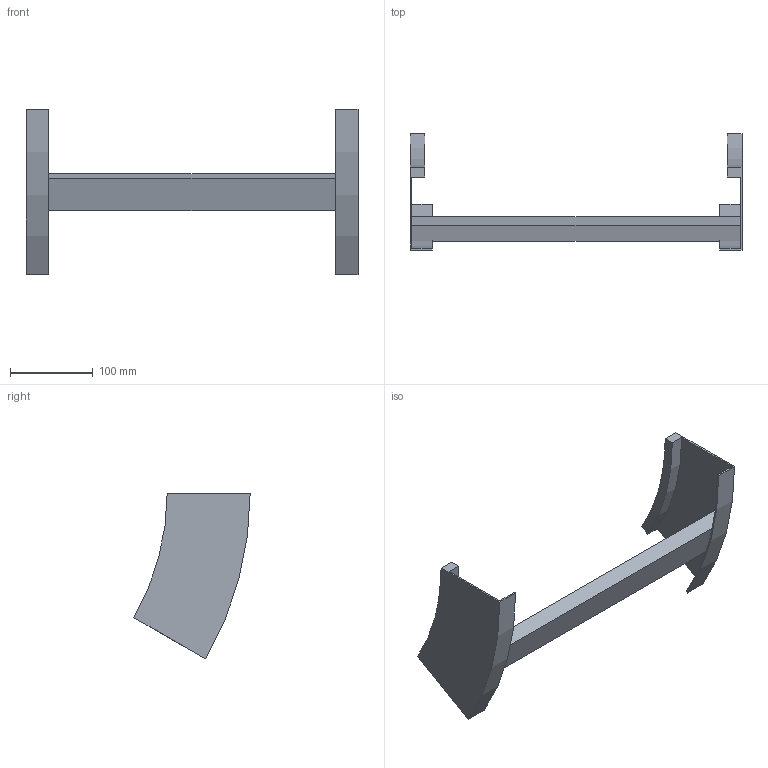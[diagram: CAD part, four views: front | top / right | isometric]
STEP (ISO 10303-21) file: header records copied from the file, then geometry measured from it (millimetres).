
FILE_DESCRIPTION (( 'STEP AP214' ), '1' );
FILE_NAME ('B2X32B3D400XX.step', '2025-03-20T09:58:09', ( '' ), ( '' ), 'SwSTEP 2.0', 'SolidWorks 2023', '' );
FILE_SCHEMA (( 'AUTOMOTIVE_DESIGN' ));
Length unit declared in the file: millimetre
Products named in the file (3): B2X32B3D400XX; TRAVERSINO_400; B2_LONGH.SALITA_30°_H100_R300
Assembly tree (3 placements, depth 2):
  B2X32B3D400XX
    B2_LONGH.SALITA_30°_H100_R300  x2
    TRAVERSINO_400
Bounding box: 400 x 140.19 x 200 mm (x, y, z)
Volume: 476480.4 mm3; surface area: 157219.7 mm2
Topology: 3 solids, 3 shells, 26 faces, 60 edges, 40 vertices
Faces by surface type: plane 18, cylinder 8
Entity records: 544 total; most frequent: DIRECTION 88, CARTESIAN_POINT 82, ORIENTED_EDGE 72, EDGE_CURVE 36, AXIS2_PLACEMENT_3D 30, LINE 28, VECTOR 28, VERTEX_POINT 24
